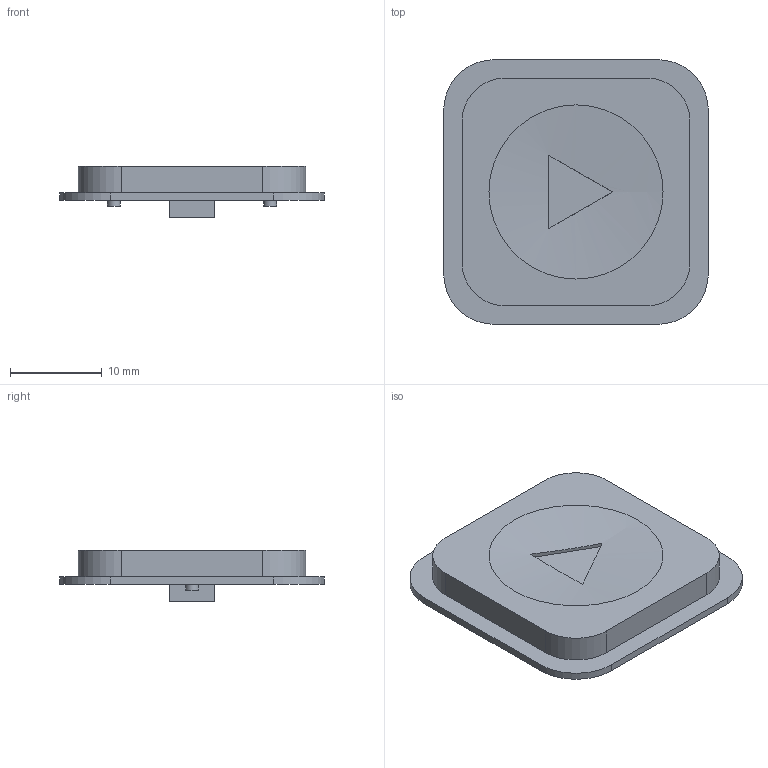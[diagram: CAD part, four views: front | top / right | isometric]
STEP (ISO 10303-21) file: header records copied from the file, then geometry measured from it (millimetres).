
FILE_DESCRIPTION(('Open CASCADE Model'),'2;1');
FILE_NAME('Open CASCADE Shape Model','2026-09-06T11:38:35',('Author'),( 'Open CASCADE'),'Open CASCADE STEP processor 7.7','Open CASCADE 7.7' ,'Unknown');
FILE_SCHEMA(('AUTOMOTIVE_DESIGN { 1 0 10303 214 1 1 1 1 }'));
Length unit declared in the file: millimetre
Products named in the file (1): Open CASCADE STEP translator 7.7 3
Bounding box: 28.8 x 28.8 x 5.6 mm (x, y, z)
Volume: 2346.8 mm3; surface area: 2010 mm2
Topology: 1 solids, 1 shells, 33 faces, 77 edges, 51 vertices
Faces by surface type: plane 22, cylinder 10, sphere 1
Full cylindrical faces by diameter (mm): 1.4 x2
Entity records: 2156 total; most frequent: CARTESIAN_POINT 537, DIRECTION 315, LINE 179, VECTOR 179, ORIENTED_EDGE 154, PCURVE 154, DEFINITIONAL_REPRESENTATION 154, EDGE_CURVE 77
